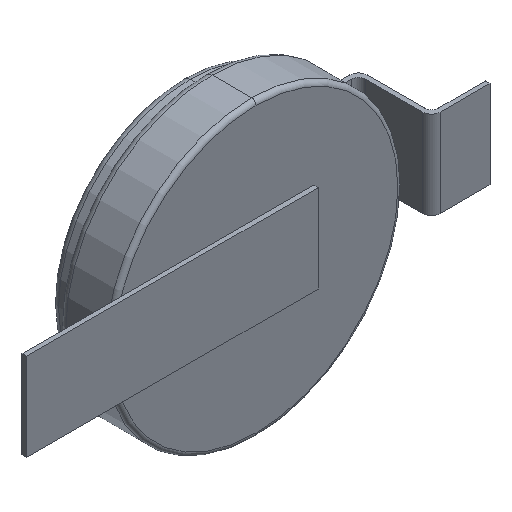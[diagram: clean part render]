
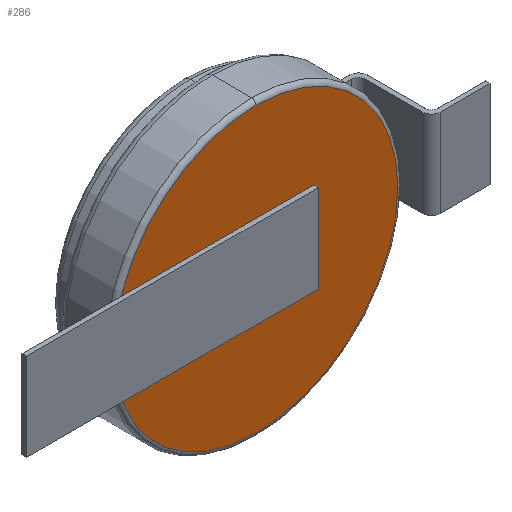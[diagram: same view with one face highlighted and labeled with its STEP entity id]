
A CAD part, isometric view. The second image highlights one B-rep face of the part: STEP entity #286.
In plain terms, the highlighted planar face has unit normal (0, -1, 0).
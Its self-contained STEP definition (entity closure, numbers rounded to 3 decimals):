
#58 = AXIS2_PLACEMENT_3D ( 'NONE', #634, #882, #414 ) ;
#91 = DIRECTION ( 'NONE',  ( 0., 0., -1. ) ) ;
#163 = DIRECTION ( 'NONE',  ( 0., -1., 0. ) ) ;
#165 = DIRECTION ( 'NONE',  ( 0., -1., 0. ) ) ;
#178 = CARTESIAN_POINT ( 'NONE',  ( 0., 0., 0. ) ) ;
#271 = VERTEX_POINT ( 'NONE', #775 ) ;
#286 = ADVANCED_FACE ( 'NONE', ( #321 ), #312, .T. ) ;
#312 = PLANE ( 'NONE',  #736 ) ;
#321 = FACE_OUTER_BOUND ( 'NONE', #577, .T. ) ;
#379 = DIRECTION ( 'NONE',  ( 0., 0., -1. ) ) ;
#414 = DIRECTION ( 'NONE',  ( 0., 0., -1. ) ) ;
#421 = AXIS2_PLACEMENT_3D ( 'NONE', #178, #163, #379 ) ;
#515 = CIRCLE ( 'NONE', #421, 4.85 ) ;
#577 = EDGE_LOOP ( 'NONE', ( #685, #977 ) ) ;
#634 = CARTESIAN_POINT ( 'NONE',  ( 0., 0., 0. ) ) ;
#665 = EDGE_CURVE ( 'NONE', #951, #271, #515, .T. ) ;
#685 = ORIENTED_EDGE ( 'NONE', *, *, #665, .T. ) ;
#699 = CARTESIAN_POINT ( 'NONE',  ( 0., 0., 0. ) ) ;
#736 = AXIS2_PLACEMENT_3D ( 'NONE', #699, #165, #91 ) ;
#775 = CARTESIAN_POINT ( 'NONE',  ( 0., 0., 4.85 ) ) ;
#791 = EDGE_CURVE ( 'NONE', #271, #951, #881, .T. ) ;
#881 = CIRCLE ( 'NONE', #58, 4.85 ) ;
#882 = DIRECTION ( 'NONE',  ( 0., -1., 0. ) ) ;
#889 = CARTESIAN_POINT ( 'NONE',  ( 0., 0., -4.85 ) ) ;
#951 = VERTEX_POINT ( 'NONE', #889 ) ;
#977 = ORIENTED_EDGE ( 'NONE', *, *, #791, .T. ) ;
